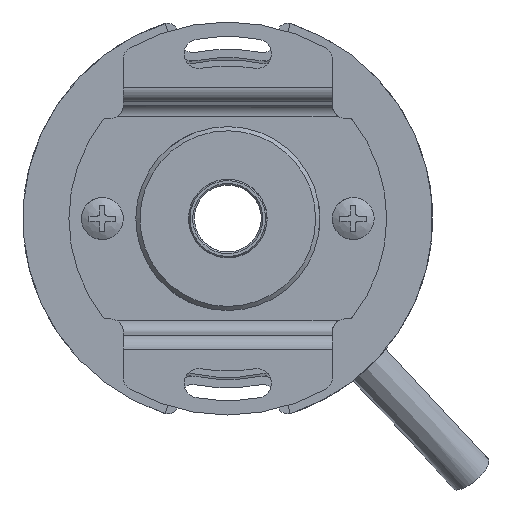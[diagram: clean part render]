
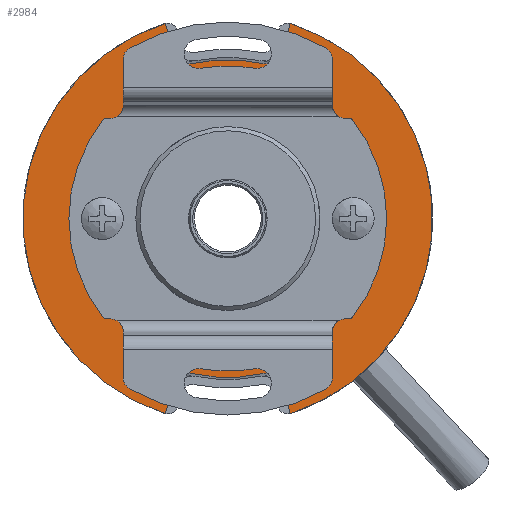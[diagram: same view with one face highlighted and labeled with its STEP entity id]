
A CAD part, left-side view. The second image highlights one B-rep face of the part: STEP entity #2984.
In plain terms, the highlighted planar face has unit normal (-1, 0, 0).
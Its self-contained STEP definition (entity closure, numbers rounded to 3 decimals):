
#2984 = ADVANCED_FACE( '', ( #5650, #5651 ), #5652, .T. );
#5650 = FACE_BOUND( '', #13902, .T. );
#5651 = FACE_OUTER_BOUND( '', #13903, .T. );
#5652 = PLANE( '', #13904 );
#13902 = EDGE_LOOP( '', ( #20260 ) );
#13903 = EDGE_LOOP( '', ( #20261, #20262, #20263, #20264, #20265, #20266, #20267, #20268, #20269, #20270, #20271, #20272 ) );
#13904 = AXIS2_PLACEMENT_3D( '', #20273, #20274, #20275 );
#20260 = ORIENTED_EDGE( '', *, *, #21342, .F. );
#20261 = ORIENTED_EDGE( '', *, *, #22822, .T. );
#20262 = ORIENTED_EDGE( '', *, *, #22402, .T. );
#20263 = ORIENTED_EDGE( '', *, *, #22941, .T. );
#20264 = ORIENTED_EDGE( '', *, *, #21366, .F. );
#20265 = ORIENTED_EDGE( '', *, *, #21110, .F. );
#20266 = ORIENTED_EDGE( '', *, *, #22070, .F. );
#20267 = ORIENTED_EDGE( '', *, *, #21225, .F. );
#20268 = ORIENTED_EDGE( '', *, *, #22357, .F. );
#20269 = ORIENTED_EDGE( '', *, *, #22385, .T. );
#20270 = ORIENTED_EDGE( '', *, *, #21677, .T. );
#20271 = ORIENTED_EDGE( '', *, *, #22923, .T. );
#20272 = ORIENTED_EDGE( '', *, *, #21246, .T. );
#20273 = CARTESIAN_POINT( '', ( 3., 0., 17.5 ) );
#20274 = DIRECTION( '', ( -1., 0., 0. ) );
#20275 = DIRECTION( '', ( 0., 0., 1. ) );
#21110 = EDGE_CURVE( '', #23915, #23917, #23918, .T. );
#21225 = EDGE_CURVE( '', #24099, #24101, #24102, .T. );
#21246 = EDGE_CURVE( '', #24136, #24134, #24137, .T. );
#21342 = EDGE_CURVE( '', #24286, #24286, #24287, .T. );
#21366 = EDGE_CURVE( '', #23917, #24329, #24330, .T. );
#21677 = EDGE_CURVE( '', #24827, #24825, #24828, .T. );
#22070 = EDGE_CURVE( '', #24101, #23915, #25389, .F. );
#22357 = EDGE_CURVE( '', #25768, #24099, #25770, .T. );
#22385 = EDGE_CURVE( '', #25768, #24827, #25807, .T. );
#22402 = EDGE_CURVE( '', #25830, #25828, #25831, .T. );
#22822 = EDGE_CURVE( '', #24134, #25830, #26314, .F. );
#22923 = EDGE_CURVE( '', #24825, #24136, #26410, .F. );
#22941 = EDGE_CURVE( '', #25828, #24329, #26429, .T. );
#23915 = VERTEX_POINT( '', #29477 );
#23917 = VERTEX_POINT( '', #29480 );
#23918 = CIRCLE( '', #29481, 2. );
#24099 = VERTEX_POINT( '', #29796 );
#24101 = VERTEX_POINT( '', #29799 );
#24102 = CIRCLE( '', #29800, 2. );
#24134 = VERTEX_POINT( '', #29855 );
#24136 = VERTEX_POINT( '', #29858 );
#24137 = CIRCLE( '', #29859, 19. );
#24286 = VERTEX_POINT( '', #30115 );
#24287 = CIRCLE( '', #30116, 17.5 );
#24329 = VERTEX_POINT( '', #30168 );
#24330 = LINE( '', #30169, #30170 );
#24825 = VERTEX_POINT( '', #31179 );
#24827 = VERTEX_POINT( '', #31182 );
#24828 = LINE( '', #31183, #31184 );
#25389 = CIRCLE( '', #32883, 19. );
#25768 = VERTEX_POINT( '', #34263 );
#25770 = LINE( '', #34266, #34267 );
#25807 = CIRCLE( '', #34314, 24.5 );
#25828 = VERTEX_POINT( '', #34424 );
#25830 = VERTEX_POINT( '', #34427 );
#25831 = LINE( '', #34428, #34429 );
#26314 = CIRCLE( '', #35527, 2. );
#26410 = CIRCLE( '', #35693, 2. );
#26429 = CIRCLE( '', #35767, 24.5 );
#29477 = CARTESIAN_POINT( '', ( 3., -4.181, 18.534 ) );
#29480 = CARTESIAN_POINT( '', ( 3., -6.553, 19.968 ) );
#29481 = AXIS2_PLACEMENT_3D( '', #36419, #36420, #36421 );
#29796 = CARTESIAN_POINT( '', ( 3., 6.553, 19.968 ) );
#29799 = CARTESIAN_POINT( '', ( 3., 4.181, 18.534 ) );
#29800 = AXIS2_PLACEMENT_3D( '', #36543, #36544, #36545 );
#29855 = CARTESIAN_POINT( '', ( 3., -4.181, -18.534 ) );
#29858 = CARTESIAN_POINT( '', ( 3., 4.181, -18.534 ) );
#29859 = AXIS2_PLACEMENT_3D( '', #36573, #36574, #36575 );
#30115 = CARTESIAN_POINT( '', ( 3., 0., 17.5 ) );
#30116 = AXIS2_PLACEMENT_3D( '', #36696, #36697, #36698 );
#30168 = CARTESIAN_POINT( '', ( 3., -7.456, 23.338 ) );
#30169 = CARTESIAN_POINT( '', ( 3., -5.497, 16.027 ) );
#30170 = VECTOR( '', #36742, 1000. );
#31179 = CARTESIAN_POINT( '', ( 3., 6.553, -19.968 ) );
#31182 = CARTESIAN_POINT( '', ( 3., 7.456, -23.338 ) );
#31183 = CARTESIAN_POINT( '', ( 3., -3.253, 16.628 ) );
#31184 = VECTOR( '', #37142, 1000. );
#32883 = AXIS2_PLACEMENT_3D( '', #37541, #37542, #37543 );
#34263 = CARTESIAN_POINT( '', ( 3., 7.456, 23.338 ) );
#34266 = CARTESIAN_POINT( '', ( 3., 5.497, 16.027 ) );
#34267 = VECTOR( '', #37785, 1000. );
#34314 = AXIS2_PLACEMENT_3D( '', #37817, #37818, #37819 );
#34424 = CARTESIAN_POINT( '', ( 3., -7.456, -23.338 ) );
#34427 = CARTESIAN_POINT( '', ( 3., -6.553, -19.968 ) );
#34428 = CARTESIAN_POINT( '', ( 3., 3.253, 16.628 ) );
#34429 = VECTOR( '', #37836, 1000. );
#35527 = AXIS2_PLACEMENT_3D( '', #38173, #38174, #38175 );
#35693 = AXIS2_PLACEMENT_3D( '', #38214, #38215, #38216 );
#35767 = AXIS2_PLACEMENT_3D( '', #38223, #38224, #38225 );
#36419 = CARTESIAN_POINT( '', ( 3., -4.621, 20.485 ) );
#36420 = DIRECTION( '', ( -1., 0., 0. ) );
#36421 = DIRECTION( '', ( 0., 0., 1. ) );
#36543 = CARTESIAN_POINT( '', ( 3., 4.621, 20.485 ) );
#36544 = DIRECTION( '', ( -1., 0., 0. ) );
#36545 = DIRECTION( '', ( 0., 0., 1. ) );
#36573 = CARTESIAN_POINT( '', ( 3., 0., 0. ) );
#36574 = DIRECTION( '', ( -1., 0., 0. ) );
#36575 = DIRECTION( '', ( 0., 0., 1. ) );
#36696 = CARTESIAN_POINT( '', ( 3., 0., 0. ) );
#36697 = DIRECTION( '', ( -1., 0., 0. ) );
#36698 = DIRECTION( '', ( 0., 0., 1. ) );
#36742 = DIRECTION( '', ( 0., -0.259, 0.966 ) );
#37142 = DIRECTION( '', ( 0., -0.259, 0.966 ) );
#37541 = CARTESIAN_POINT( '', ( 3., 0., 0. ) );
#37542 = DIRECTION( '', ( -1., 0., 0. ) );
#37543 = DIRECTION( '', ( 0., 0., 1. ) );
#37785 = DIRECTION( '', ( 0., -0.259, -0.966 ) );
#37817 = CARTESIAN_POINT( '', ( 3., 0., 0. ) );
#37818 = DIRECTION( '', ( -1., 0., 0. ) );
#37819 = DIRECTION( '', ( 0., 0., 1. ) );
#37836 = DIRECTION( '', ( 0., -0.259, -0.966 ) );
#38173 = CARTESIAN_POINT( '', ( 3., -4.621, -20.485 ) );
#38174 = DIRECTION( '', ( -1., 0., 0. ) );
#38175 = DIRECTION( '', ( 0., 0., 1. ) );
#38214 = CARTESIAN_POINT( '', ( 3., 4.621, -20.485 ) );
#38215 = DIRECTION( '', ( -1., 0., 0. ) );
#38216 = DIRECTION( '', ( 0., 0., 1. ) );
#38223 = CARTESIAN_POINT( '', ( 3., 0., 0. ) );
#38224 = DIRECTION( '', ( -1., 0., 0. ) );
#38225 = DIRECTION( '', ( 0., 0., 1. ) );
